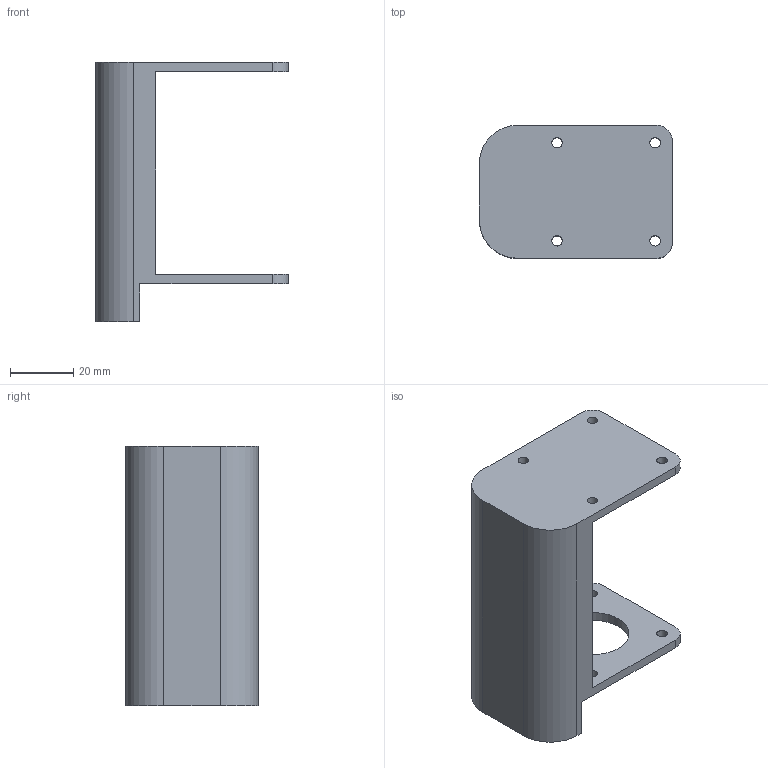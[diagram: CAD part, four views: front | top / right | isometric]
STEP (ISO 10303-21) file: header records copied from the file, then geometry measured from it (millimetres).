
FILE_DESCRIPTION( ( '' ), ' ' );
FILE_NAME( '/vol/tmp/translate-6617977827798856034/589d33f7876aac0fbabf0e75.step', '2017-02-10T03:31:04', ( '' ), ( '' ), ' ', ' ', ' ' );
FILE_SCHEMA( ( 'AUTOMOTIVE_DESIGN { 1 0 10303 214 1 1 1 1 }' ) );
Length unit declared in the file: metre
Products named in the file (1): Part 1
Bounding box: 61 x 42 x 82 mm (x, y, z)
Volume: 66851.5 mm3; surface area: 17644.5 mm2
Topology: 1 solids, 1 shells, 597 faces, 1762 edges, 1176 vertices
Faces by surface type: plane 582, cylinder 15
Full cylindrical faces by diameter (mm): 3.3 x8, 23 x1
Entity records: 24265 total; most frequent: CARTESIAN_POINT 3519, ORIENTED_EDGE 3498, DIRECTION 2975, EDGE_CURVE 1749, LINE 1719, VECTOR 1719, VERTEX_POINT 1172, EDGE_LOOP 633
